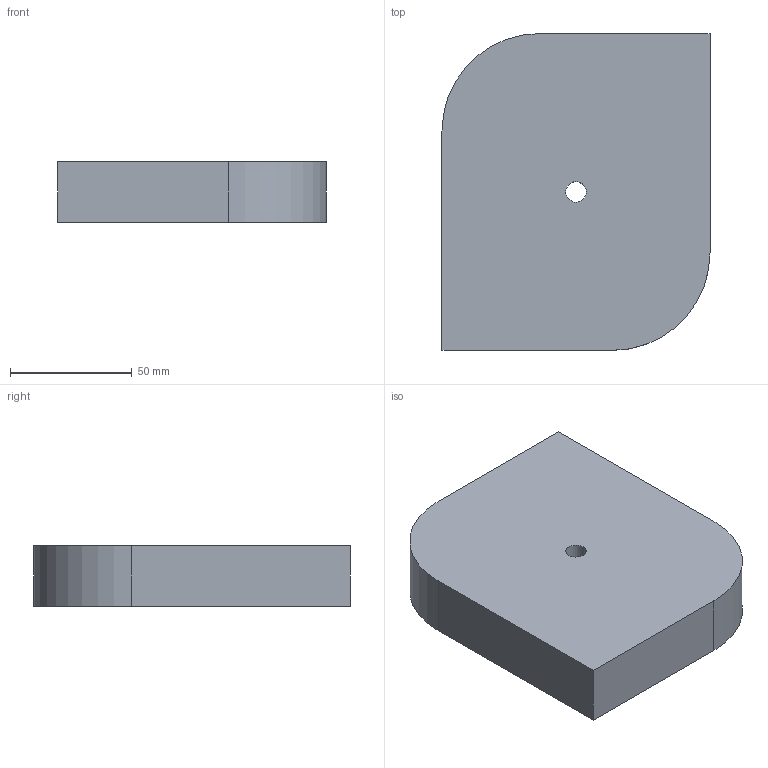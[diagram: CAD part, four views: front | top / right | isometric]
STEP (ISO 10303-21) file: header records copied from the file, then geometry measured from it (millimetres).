
FILE_DESCRIPTION(('CATIA V5 STEP Exchange'),'2;1');
FILE_NAME('C:\_Andres\UNIVERSIDAD\IQS\ASIGNATURAS\DAO\EXF\EXF-15161c\1original\Purroy_Trillo_Ej01-plano_v20.stp','2016-03-04T14:59:46+00:00',('none'),('none'),'CATIA Version 5 Release 20 SP 1 (IN-10)','CATIA V5 STEP AP203','none');
FILE_SCHEMA(('CONFIG_CONTROL_DESIGN'));
Length unit declared in the file: millimetre
Products named in the file (1): Purroy_Trillo_Ej01-plano_v20
Bounding box: 110 x 130 x 25 mm (x, y, z)
Volume: 338954.3 mm3; surface area: 38915.8 mm2
Topology: 1 solids, 1 shells, 10 faces, 24 edges, 16 vertices
Faces by surface type: plane 6, cylinder 4
Entity records: 333 total; most frequent: CARTESIAN_POINT 51, ORIENTED_EDGE 48, DIRECTION 44, EDGE_CURVE 24, AXIS2_PLACEMENT_3D 19, VECTOR 16, LINE 16, VERTEX_POINT 16
